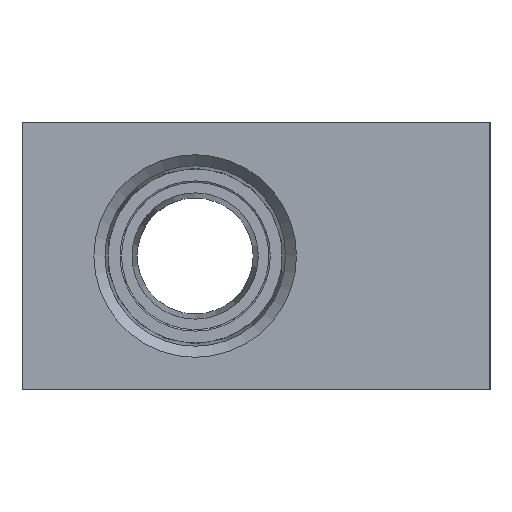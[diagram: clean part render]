
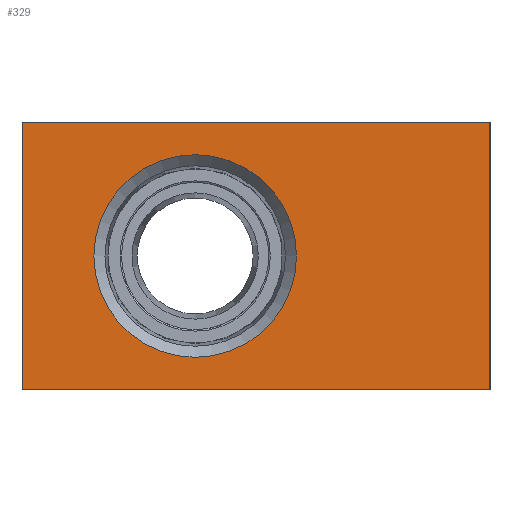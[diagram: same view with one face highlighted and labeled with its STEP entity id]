
A CAD part, left-side view. The second image highlights one B-rep face of the part: STEP entity #329.
In plain terms, the highlighted planar face has unit normal (-1, 0, 0).
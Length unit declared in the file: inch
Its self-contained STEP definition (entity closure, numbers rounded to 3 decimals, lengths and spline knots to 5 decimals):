
#78 = LINE ( 'NONE', #716, #777 ) ;
#144 = CARTESIAN_POINT ( 'NONE',  ( 0., 0., -0.5 ) ) ;
#175 = PLANE ( 'NONE',  #859 ) ;
#178 = VECTOR ( 'NONE', #641, 39.37008 ) ;
#252 = VERTEX_POINT ( 'NONE', #1023 ) ;
#324 = EDGE_LOOP ( 'NONE', ( #371, #1568, #622, #1143 ) ) ;
#329 = ADVANCED_FACE ( 'NONE', ( #1436, #592 ), #175, .T. ) ;
#335 = DIRECTION ( 'NONE',  ( 0., 0., 1. ) ) ;
#356 = DIRECTION ( 'NONE',  ( 0., 0., 1. ) ) ;
#371 = ORIENTED_EDGE ( 'NONE', *, *, #942, .T. ) ;
#471 = DIRECTION ( 'NONE',  ( 0., 0., 1. ) ) ;
#563 = DIRECTION ( 'NONE',  ( 1., 0., 0. ) ) ;
#568 = VECTOR ( 'NONE', #356, 39.37008 ) ;
#592 = FACE_OUTER_BOUND ( 'NONE', #324, .T. ) ;
#594 = EDGE_CURVE ( 'NONE', #721, #662, #1029, .T. ) ;
#605 = DIRECTION ( 'NONE',  ( 0., -1., 0. ) ) ;
#622 = ORIENTED_EDGE ( 'NONE', *, *, #808, .F. ) ;
#641 = DIRECTION ( 'NONE',  ( 0., -1., 0. ) ) ;
#644 = CARTESIAN_POINT ( 'NONE',  ( 0., 1.75, 0.5 ) ) ;
#662 = VERTEX_POINT ( 'NONE', #1144 ) ;
#694 = VERTEX_POINT ( 'NONE', #1586 ) ;
#716 = CARTESIAN_POINT ( 'NONE',  ( 0., 0., 0.5 ) ) ;
#721 = VERTEX_POINT ( 'NONE', #1480 ) ;
#765 = LINE ( 'NONE', #644, #1341 ) ;
#777 = VECTOR ( 'NONE', #605, 39.37008 ) ;
#808 = EDGE_CURVE ( 'NONE', #721, #252, #765, .T. ) ;
#828 = CARTESIAN_POINT ( 'NONE',  ( 0., 0., -0.59055 ) ) ;
#859 = AXIS2_PLACEMENT_3D ( 'NONE', #932, #1562, #471 ) ;
#910 = CARTESIAN_POINT ( 'NONE',  ( 0., 0., 0.5 ) ) ;
#932 = CARTESIAN_POINT ( 'NONE',  ( 0., 0., -0.59055 ) ) ;
#942 = EDGE_CURVE ( 'NONE', #662, #1325, #963, .T. ) ;
#963 = LINE ( 'NONE', #828, #568 ) ;
#993 = EDGE_CURVE ( 'NONE', #252, #1325, #78, .T. ) ;
#1023 = CARTESIAN_POINT ( 'NONE',  ( 0., 1.75, 0.5 ) ) ;
#1029 = LINE ( 'NONE', #144, #178 ) ;
#1039 = CIRCLE ( 'NONE', #1138, 0.3788 ) ;
#1138 = AXIS2_PLACEMENT_3D ( 'NONE', #1445, #563, #335 ) ;
#1143 = ORIENTED_EDGE ( 'NONE', *, *, #594, .T. ) ;
#1144 = CARTESIAN_POINT ( 'NONE',  ( 0., 0., -0.5 ) ) ;
#1183 = EDGE_LOOP ( 'NONE', ( #1405 ) ) ;
#1257 = DIRECTION ( 'NONE',  ( 0., 0., 1. ) ) ;
#1325 = VERTEX_POINT ( 'NONE', #910 ) ;
#1341 = VECTOR ( 'NONE', #1257, 39.37008 ) ;
#1405 = ORIENTED_EDGE ( 'NONE', *, *, #1440, .T. ) ;
#1436 = FACE_BOUND ( 'NONE', #1183, .T. ) ;
#1440 = EDGE_CURVE ( 'NONE', #694, #694, #1039, .T. ) ;
#1445 = CARTESIAN_POINT ( 'NONE',  ( 0., 1.10236, 0. ) ) ;
#1480 = CARTESIAN_POINT ( 'NONE',  ( 0., 1.75, -0.5 ) ) ;
#1562 = DIRECTION ( 'NONE',  ( -1., 0., 0. ) ) ;
#1568 = ORIENTED_EDGE ( 'NONE', *, *, #993, .F. ) ;
#1586 = CARTESIAN_POINT ( 'NONE',  ( 0., 1.10236, 0.3788 ) ) ;
